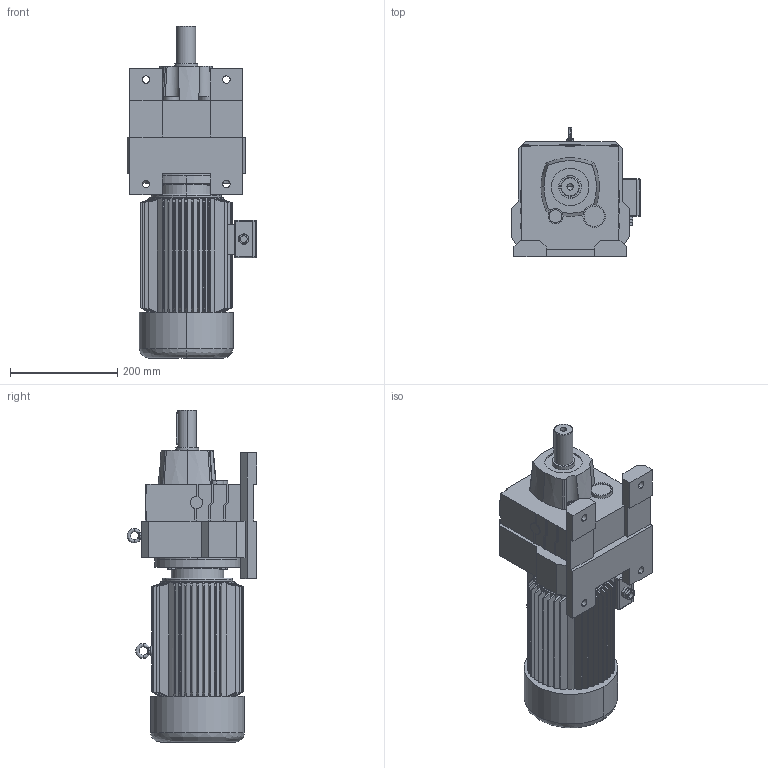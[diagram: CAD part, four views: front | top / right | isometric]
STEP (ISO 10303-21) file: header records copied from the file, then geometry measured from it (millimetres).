
FILE_DESCRIPTION (( 'STEP AP214' ), '1' );
FILE_NAME ('MR67.step', '2020-06-27T02:57:03', ( '' ), ( '' ), 'SwSTEP 2.0', 'SolidWorks 2016', '' );
FILE_SCHEMA (( 'AUTOMOTIVE_DESIGN' ));
Length unit declared in the file: millimetre
Products named in the file (1): MR67
Bounding box: 242.76 x 241.88 x 620 mm (x, y, z)
Volume: 13247628.5 mm3; surface area: 762470.3 mm2
Topology: 3 solids, 3 shells, 934 faces, 2412 edges, 1527 vertices
Faces by surface type: plane 513, cone 162, bspline 130, cylinder 129
Entity records: 42389 total; most frequent: CARTESIAN_POINT 10635, ORIENTED_EDGE 4804, DIRECTION 3888, EDGE_CURVE 2402, VERTEX_POINT 1527, LINE 1312, VECTOR 1312, AXIS2_PLACEMENT_3D 1288
